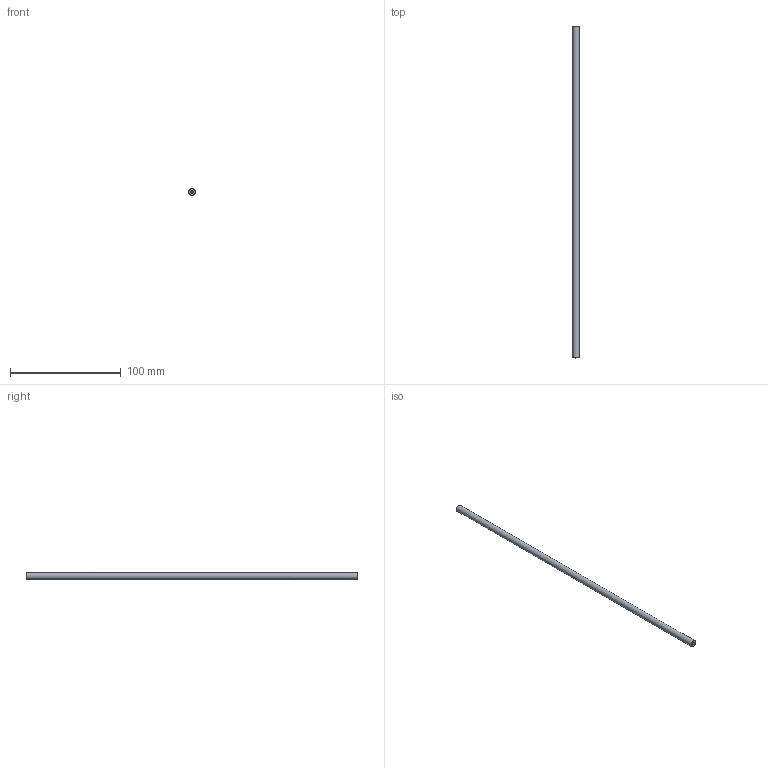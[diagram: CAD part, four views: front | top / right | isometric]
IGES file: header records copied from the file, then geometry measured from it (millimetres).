
Global section: file name: C30-RO-6-300; native system: Autodesk Inventor 2016; preprocessor: unknown; author: e.nonaka; date: 20170509.114129; units: millimetre
Bounding box: 5.99 x 300 x 5.99 mm (x, y, z)
Volume: 8412.7 mm3; surface area: 5848.7 mm2
Topology: 1 solids, 1 shells, 7 faces, 17 edges, 12 vertices
Faces by surface type: bspline 7
